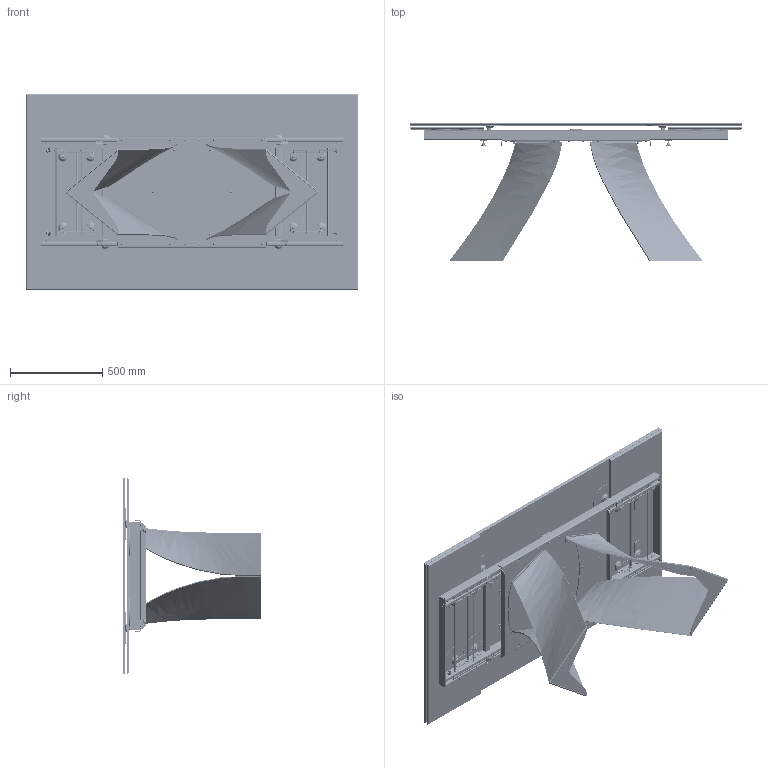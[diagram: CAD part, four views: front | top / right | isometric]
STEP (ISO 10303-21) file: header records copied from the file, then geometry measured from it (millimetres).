
FILE_DESCRIPTION (( 'STEP AP203' ), '1' );
FILE_NAME ('TW31G_Twist 180-260_Close_Ceramic.STEP', '2024-08-01T13:47:47', ( '' ), ( '' ), 'SwSTEP 2.0', 'SolidWorks 2022', '' );
FILE_SCHEMA (( 'CONFIG_CONTROL_DESIGN' ));
Length unit declared in the file: millimetre
Products named in the file (76): 523020805; SAB100301_02-00-CILINDRO_TWIST ALL PIASTRA ANCORAGGIO V03 ANTRACITE GOFFRATO IMB.SLDASM; 523020817; COLLO TELAIO UNIVERSALE SAB100301 CON FERRAMENTA; 1000242; 1000181; 523020804_DEFAULT; 1000325; SpecchiaturaGAMBA TWIST PER ALLUNGABILE_PIASTRA VERTICALE DESTRA; GAMBA TWIST PER ALLUNGABILE_PIASTRA COLLEGAMENTO; FERMO NEBULA H15,5; 1000166; 1000165; K34A-00-ALLUNGA 40X106; 521061110; 1000005; 1000250; TWS000000BAA-00-TWIST BASE GREZZA X ALLUNGABILE; 521060816; 5230208 TEL EST_DEFAULT; 523020814; 1000973; 523020806; 1000515; 1000865; SAB100301-00-CILINDRO_TWIST ALL PIASTRA ANCORAGGIO V03 ANTRACITE GOFFRATO IMB; 523020811; 1000337; GAMBA TWIST PER ALLUNGABILE_PIEDE A TERRA; 1000273; 1000338; 1000573; 523020809; 1000487; 1000305; 523020802; SAB100301_01-00-CILINDRO_TWIST ALL PIASTRA ANCORAGGIO V03 ANTRACITE GOFFRATO IMB.SLDASM; 523020803; 1000251; 5230208 TEL INT_CHIUSO_chiuso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
Assembly tree (241 placements, depth 5):
  TW31G_Twist 180-260_Close_Ceramic
    COLLO TELAIO UNIVERSALE SAB100301 CON FERRAMENTA
      SAB100301-00-CILINDRO_TWIST ALL PIASTRA ANCORAGGIO V03 ANTRACITE GOFFRATO IMB
        SAB100301_01-00-CILINDRO_TWIST ALL PIASTRA ANCORAGGIO V03 ANTRACITE GOFFRATO IMB.SLDASM
        SAB100301_02-00-CILINDRO_TWIST ALL PIASTRA ANCORAGGIO V03 ANTRACITE GOFFRATO IMB.SLDASM  x2
      M6xXXmm_M6x20mm  x12
    TWS000000BAA-00-TWIST BASE GREZZA X ALLUNGABILE  x2
      GAMBA TWIST PER ALLUNGABILE_PIASTRA COLLEGAMENTO
      GAMBA TWIST PER ALLUNGABILE_PIASTRA VERTICALE SINISTRA
      GAMBA TWIST PER ALLUNGABILE_PIEDE A TERRA
      SpecchiaturaGAMBA TWIST PER ALLUNGABILE_PIASTRA VERTICALE DESTRA
    TTAV04-00-TELAIO ALLUNGABILE X TAVOLI 180 260cm_CHIUSO
      5230208 TEL EST_DEFAULT
        523020803  x2
        523020813  x2
        521061110  x2
        523020811
        FERMO NEBULA H15,5  x4
          1000242
          1000515
          1000325
        1000144  x4
        521060816  x4
        1001535  x4
        1000250  x24
        1000165
        1000305  x4
        1000280  x4
        1000013  x4
        1000865  x4
        3001149  x4
        1000273  x20
        523020814  x4
        1000375  x8
        1000166
        1001576  x4
      5230208 TEL INT_CHIUSO_chiuso  x2
        5230208 SAL_LIBERO
          523020808
          523020806
          523020801  x2
          523020804_DEFAULT
          523020805
          521061107_DEFAULT  x4
          2001011  x2
        523020809
        523020802
        1000487
        RUOTA NEB H23,4
          1000338
          1000443
          1000084
        1000289
        1000096
        1000170
        1000304
        1000244
        1000375
        1000001A
        1000973
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Bounding box: 1800 x 749.5 x 1060 mm (x, y, z)
Volume: 48657388 mm3; surface area: 18218899.7 mm2
Topology: 53 solids, 336 shells, 8782 faces, 21088 edges, 13300 vertices
Faces by surface type: cylinder 3574, plane 3544, cone 888, bspline 560, torus 216
Entity records: 82026 total; most frequent: CARTESIAN_POINT 21142, DIRECTION 10650, ORIENTED_EDGE 9686, EDGE_CURVE 4843, AXIS2_PLACEMENT_3D 3994, VERTEX_POINT 3114, LINE 2662, VECTOR 2662
